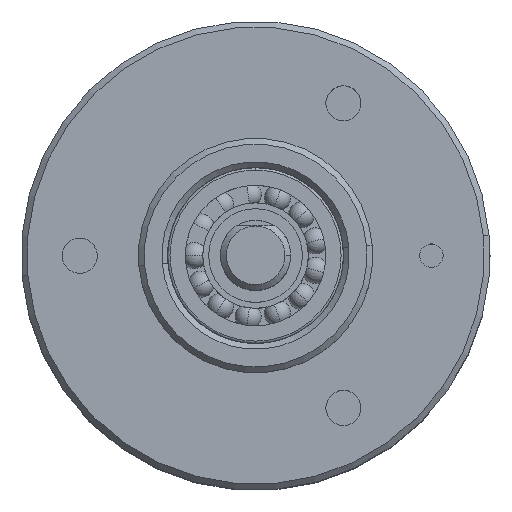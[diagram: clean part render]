
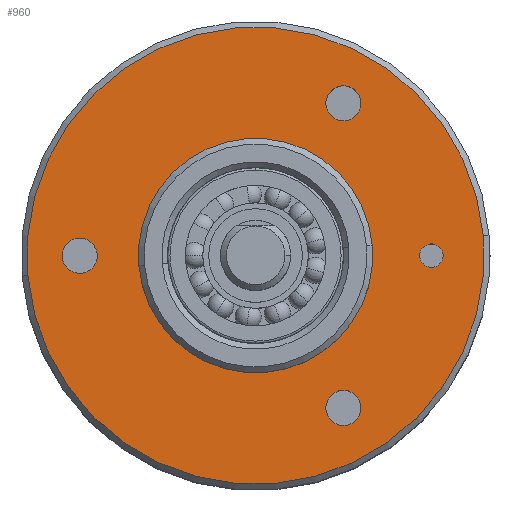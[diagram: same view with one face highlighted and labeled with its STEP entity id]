
A CAD part, top view. The second image highlights one B-rep face of the part: STEP entity #960.
In plain terms, the highlighted planar face has unit normal (0, 0, 1).
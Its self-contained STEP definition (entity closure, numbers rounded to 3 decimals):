
#231=PLANE('',#5439);
#299=FACE_BOUND('',#1517,.T.);
#300=FACE_BOUND('',#1518,.T.);
#301=FACE_BOUND('',#1519,.T.);
#302=FACE_BOUND('',#1520,.T.);
#303=FACE_BOUND('',#1521,.T.);
#304=FACE_BOUND('',#1522,.T.);
#960=ADVANCED_FACE('',(#299,#300,#301,#302,#303,#304),#231,.T.);
#1517=EDGE_LOOP('',(#2991,#2992));
#1518=EDGE_LOOP('',(#2993,#2994));
#1519=EDGE_LOOP('',(#2995,#2996));
#1520=EDGE_LOOP('',(#2997,#2998));
#1521=EDGE_LOOP('',(#2999,#3000));
#1522=EDGE_LOOP('',(#3001,#3002));
#2991=ORIENTED_EDGE('',*,*,#4448,.T.);
#2992=ORIENTED_EDGE('',*,*,#4449,.T.);
#2993=ORIENTED_EDGE('',*,*,#4450,.F.);
#2994=ORIENTED_EDGE('',*,*,#4451,.F.);
#2995=ORIENTED_EDGE('',*,*,#4452,.F.);
#2996=ORIENTED_EDGE('',*,*,#4453,.F.);
#2997=ORIENTED_EDGE('',*,*,#4454,.F.);
#2998=ORIENTED_EDGE('',*,*,#4455,.F.);
#2999=ORIENTED_EDGE('',*,*,#4456,.F.);
#3000=ORIENTED_EDGE('',*,*,#4457,.F.);
#3001=ORIENTED_EDGE('',*,*,#4445,.F.);
#3002=ORIENTED_EDGE('',*,*,#4447,.F.);
#3760=VERTEX_POINT('',#10228);
#3761=VERTEX_POINT('',#10230);
#3762=VERTEX_POINT('',#10236);
#3763=VERTEX_POINT('',#10237);
#3764=VERTEX_POINT('',#10240);
#3765=VERTEX_POINT('',#10241);
#3766=VERTEX_POINT('',#10244);
#3767=VERTEX_POINT('',#10245);
#3768=VERTEX_POINT('',#10248);
#3769=VERTEX_POINT('',#10249);
#3770=VERTEX_POINT('',#10252);
#3771=VERTEX_POINT('',#10253);
#4445=EDGE_CURVE('',#3760,#3761,#4885,.T.);
#4447=EDGE_CURVE('',#3761,#3760,#4886,.T.);
#4448=EDGE_CURVE('',#3762,#3763,#4887,.T.);
#4449=EDGE_CURVE('',#3763,#3762,#4888,.T.);
#4450=EDGE_CURVE('',#3764,#3765,#4889,.T.);
#4451=EDGE_CURVE('',#3765,#3764,#4890,.T.);
#4452=EDGE_CURVE('',#3766,#3767,#4891,.T.);
#4453=EDGE_CURVE('',#3767,#3766,#4892,.T.);
#4454=EDGE_CURVE('',#3768,#3769,#4893,.T.);
#4455=EDGE_CURVE('',#3769,#3768,#4894,.T.);
#4456=EDGE_CURVE('',#3770,#3771,#4895,.T.);
#4457=EDGE_CURVE('',#3771,#3770,#4896,.T.);
#4885=CIRCLE('',#5425,10.);
#4886=CIRCLE('',#5427,10.);
#4887=CIRCLE('',#5429,19.5);
#4888=CIRCLE('',#5430,19.5);
#4889=CIRCLE('',#5431,1.5);
#4890=CIRCLE('',#5432,1.5);
#4891=CIRCLE('',#5433,1.5);
#4892=CIRCLE('',#5434,1.5);
#4893=CIRCLE('',#5435,1.5);
#4894=CIRCLE('',#5436,1.5);
#4895=CIRCLE('',#5437,1.);
#4896=CIRCLE('',#5438,1.);
#5425=AXIS2_PLACEMENT_3D('',#10229,#6558,#6559);
#5427=AXIS2_PLACEMENT_3D('',#10233,#6563,#6564);
#5429=AXIS2_PLACEMENT_3D('',#10235,#6567,#6568);
#5430=AXIS2_PLACEMENT_3D('',#10238,#6569,#6570);
#5431=AXIS2_PLACEMENT_3D('',#10239,#6571,#6572);
#5432=AXIS2_PLACEMENT_3D('',#10242,#6573,#6574);
#5433=AXIS2_PLACEMENT_3D('',#10243,#6575,#6576);
#5434=AXIS2_PLACEMENT_3D('',#10246,#6577,#6578);
#5435=AXIS2_PLACEMENT_3D('',#10247,#6579,#6580);
#5436=AXIS2_PLACEMENT_3D('',#10250,#6581,#6582);
#5437=AXIS2_PLACEMENT_3D('',#10251,#6583,#6584);
#5438=AXIS2_PLACEMENT_3D('',#10254,#6585,#6586);
#5439=AXIS2_PLACEMENT_3D('',#10255,#6587,#6588);
#6558=DIRECTION('',(0.,0.,1.));
#6559=DIRECTION('',(-0.996,-0.087,0.));
#6563=DIRECTION('',(0.,0.,1.));
#6564=DIRECTION('',(0.996,0.087,0.));
#6567=DIRECTION('',(0.,0.,1.));
#6568=DIRECTION('',(-0.996,-0.087,0.));
#6569=DIRECTION('',(0.,0.,1.));
#6570=DIRECTION('',(0.996,0.087,0.));
#6571=DIRECTION('',(0.,0.,1.));
#6572=DIRECTION('',(-0.087,0.996,0.));
#6573=DIRECTION('',(0.,0.,1.));
#6574=DIRECTION('',(0.087,-0.996,0.));
#6575=DIRECTION('',(0.,0.,1.));
#6576=DIRECTION('',(-0.819,-0.574,0.));
#6577=DIRECTION('',(0.,0.,1.));
#6578=DIRECTION('',(0.819,0.574,0.));
#6579=DIRECTION('',(0.,0.,1.));
#6580=DIRECTION('',(0.906,-0.423,0.));
#6581=DIRECTION('',(0.,0.,1.));
#6582=DIRECTION('',(-0.906,0.423,0.));
#6583=DIRECTION('',(0.,0.,1.));
#6584=DIRECTION('',(0.087,-0.996,0.));
#6585=DIRECTION('',(0.,0.,1.));
#6586=DIRECTION('',(-0.087,0.996,0.));
#6587=DIRECTION('',(0.,0.,1.));
#6588=DIRECTION('',(0.996,0.087,0.));
#10228=CARTESIAN_POINT('',(10.038,19.128,-11.5));
#10229=CARTESIAN_POINT('',(20.,20.,-11.5));
#10230=CARTESIAN_POINT('',(29.962,20.872,-11.5));
#10233=CARTESIAN_POINT('',(20.,20.,-11.5));
#10235=CARTESIAN_POINT('',(20.,20.,-11.5));
#10236=CARTESIAN_POINT('',(0.574,18.3,-11.5));
#10237=CARTESIAN_POINT('',(39.426,21.7,-11.5));
#10238=CARTESIAN_POINT('',(20.,20.,-11.5));
#10239=CARTESIAN_POINT('',(27.5,32.99,-11.5));
#10240=CARTESIAN_POINT('',(27.369,34.485,-11.5));
#10241=CARTESIAN_POINT('',(27.631,31.496,-11.5));
#10242=CARTESIAN_POINT('',(27.5,32.99,-11.5));
#10243=CARTESIAN_POINT('',(5.,20.,-11.5));
#10244=CARTESIAN_POINT('',(3.771,19.14,-11.5));
#10245=CARTESIAN_POINT('',(6.229,20.86,-11.5));
#10246=CARTESIAN_POINT('',(5.,20.,-11.5));
#10247=CARTESIAN_POINT('',(27.5,7.01,-11.5));
#10248=CARTESIAN_POINT('',(28.859,6.376,-11.5));
#10249=CARTESIAN_POINT('',(26.141,7.644,-11.5));
#10250=CARTESIAN_POINT('',(27.5,7.01,-11.5));
#10251=CARTESIAN_POINT('',(35.,20.,-11.5));
#10252=CARTESIAN_POINT('',(35.087,19.004,-11.5));
#10253=CARTESIAN_POINT('',(34.913,20.996,-11.5));
#10254=CARTESIAN_POINT('',(35.,20.,-11.5));
#10255=CARTESIAN_POINT('',(20.,20.,-11.5));
